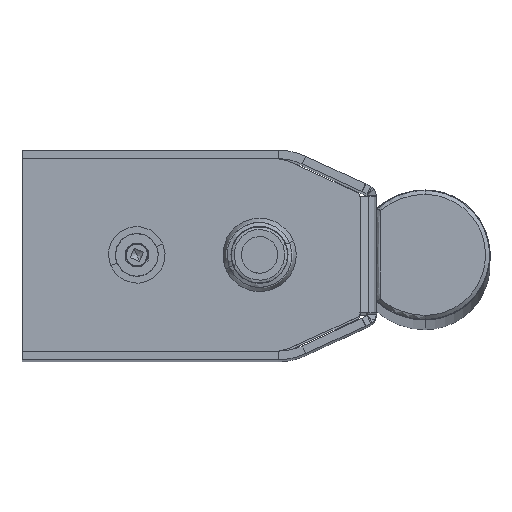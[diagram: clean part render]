
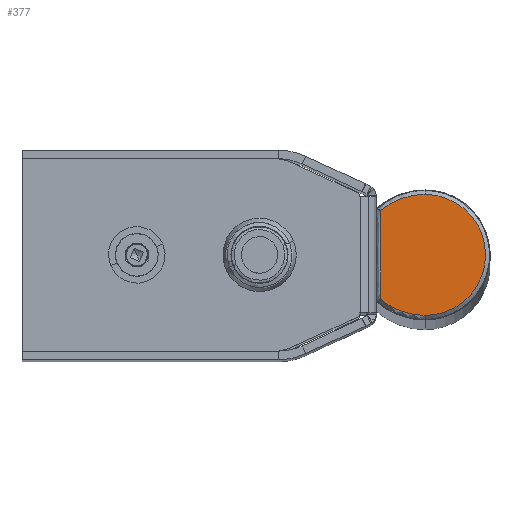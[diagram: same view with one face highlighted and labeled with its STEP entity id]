
A CAD part, top view. The second image highlights one B-rep face of the part: STEP entity #377.
In plain terms, the highlighted planar face has unit normal (0, 0, 1).
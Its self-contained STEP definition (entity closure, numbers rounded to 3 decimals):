
#377=ADVANCED_FACE('',(#667),#4584,.T.);
#667=FACE_OUTER_BOUND('',#978,.T.);
#978=EDGE_LOOP('',(#2315,#2316,#2317,#2318));
#2315=ORIENTED_EDGE('',*,*,#3092,.F.);
#2316=ORIENTED_EDGE('',*,*,#3093,.F.);
#2317=ORIENTED_EDGE('',*,*,#3095,.F.);
#2318=ORIENTED_EDGE('',*,*,#3097,.F.);
#3092=EDGE_CURVE('',#4294,#4292,#3568,.T.);
#3093=EDGE_CURVE('',#4295,#4294,#3846,.T.);
#3095=EDGE_CURVE('',#4293,#4295,#3848,.T.);
#3097=EDGE_CURVE('',#4292,#4293,#3850,.T.);
#3568=B_SPLINE_CURVE_WITH_KNOTS('',1,(#10921,#10922),.UNSPECIFIED.,.F.,
 .F.,(2,2),(-15.643,0.),.UNSPECIFIED.);
#3846=(
BOUNDED_CURVE()
B_SPLINE_CURVE(2,(#10923,#10924,#10925),.UNSPECIFIED.,.F.,.F.)
B_SPLINE_CURVE_WITH_KNOTS((3,3),(0.,8.552),.UNSPECIFIED.)
CURVE()
GEOMETRIC_REPRESENTATION_ITEM()
RATIONAL_B_SPLINE_CURVE((1.,0.939,1.))
REPRESENTATION_ITEM('')
);
#3848=(
BOUNDED_CURVE()
B_SPLINE_CURVE(2,(#10929,#10930,#10931,#10932,#10933),.UNSPECIFIED.,.F.,
 .F.)
B_SPLINE_CURVE_WITH_KNOTS((3,2,3),(0.,16.805,33.611),
 .UNSPECIFIED.)
CURVE()
GEOMETRIC_REPRESENTATION_ITEM()
RATIONAL_B_SPLINE_CURVE((1.,0.707,1.,0.707,1.))
REPRESENTATION_ITEM('')
);
#3850=(
BOUNDED_CURVE()
B_SPLINE_CURVE(2,(#10937,#10938,#10939),.UNSPECIFIED.,.F.,.F.)
B_SPLINE_CURVE_WITH_KNOTS((3,3),(0.,8.552),.UNSPECIFIED.)
CURVE()
GEOMETRIC_REPRESENTATION_ITEM()
RATIONAL_B_SPLINE_CURVE((1.,0.939,1.))
REPRESENTATION_ITEM('')
);
#4292=VERTEX_POINT('',#10851);
#4293=VERTEX_POINT('',#10852);
#4294=VERTEX_POINT('',#10853);
#4295=VERTEX_POINT('',#10854);
#4584=PLANE('',#4720);
#4720=AXIS2_PLACEMENT_3D('',#10357,#4840,$);
#4840=DIRECTION('',(0.,0.,1.));
#10357=CARTESIAN_POINT('',(21.103,1986.962,2068.5));
#10851=CARTESIAN_POINT('',(22.96,2007.622,2068.5));
#10852=CARTESIAN_POINT('',(30.829,2010.499,2068.5));
#10853=CARTESIAN_POINT('',(22.96,1991.978,2068.5));
#10854=CARTESIAN_POINT('',(30.829,1989.101,2068.5));
#10921=CARTESIAN_POINT('',(22.96,1991.978,2068.5));
#10922=CARTESIAN_POINT('',(22.96,2007.622,2068.5));
#10923=CARTESIAN_POINT('',(30.829,1989.101,2068.5));
#10924=CARTESIAN_POINT('',(26.369,1989.101,2068.5));
#10925=CARTESIAN_POINT('',(22.96,1991.978,2068.5));
#10929=CARTESIAN_POINT('',(30.829,2010.499,2068.5));
#10930=CARTESIAN_POINT('',(41.528,2010.499,2068.5));
#10931=CARTESIAN_POINT('',(41.528,1999.8,2068.5));
#10932=CARTESIAN_POINT('',(41.528,1989.101,2068.5));
#10933=CARTESIAN_POINT('',(30.829,1989.101,2068.5));
#10937=CARTESIAN_POINT('',(22.96,2007.622,2068.5));
#10938=CARTESIAN_POINT('',(26.369,2010.499,2068.5));
#10939=CARTESIAN_POINT('',(30.829,2010.499,2068.5));
